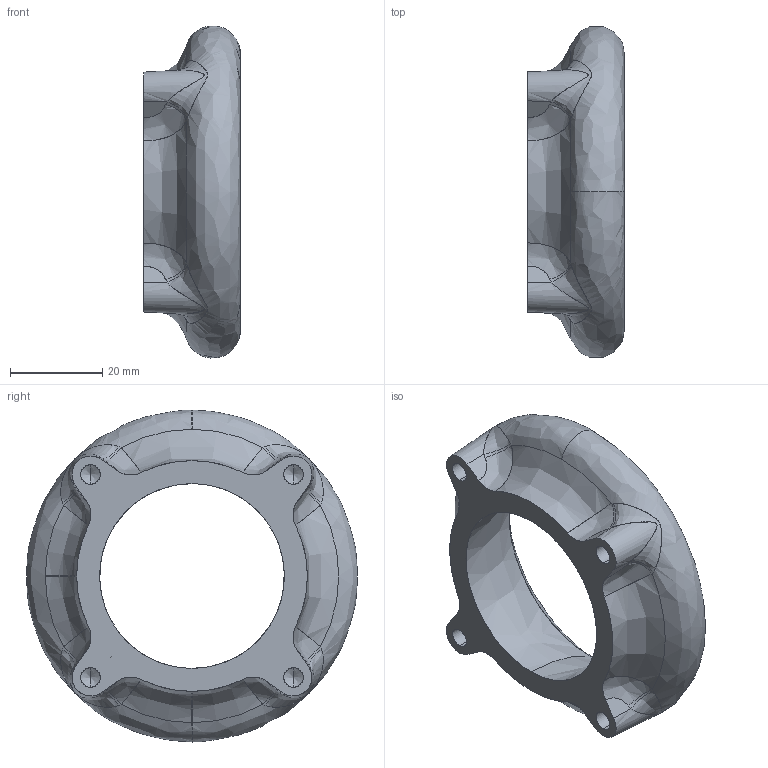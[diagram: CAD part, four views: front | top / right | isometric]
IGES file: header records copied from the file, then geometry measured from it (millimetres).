
Start section: SolidWorks IGES file using analytic representation for surfaces
Global section: file name: D:\??????? ? ?????\Lehmann turbo manifold MX-5 Miata\Lehmann turbo manifold MX-5 Miata F40 velocity stack.IGS; native system: SolidWorks 2019; preprocessor: SolidWorks 2019; author: GOD; date: 250315.210831; units: millimetre
Bounding box: 21 x 71.68 x 71.96 mm (x, y, z)
Surface area: 11319.4 mm2 (no closed solid volume)
Topology: 0 solids, 0 shells, 61 faces, 923 edges, 915 vertices
Faces by surface type: bspline 39, revolution 22
